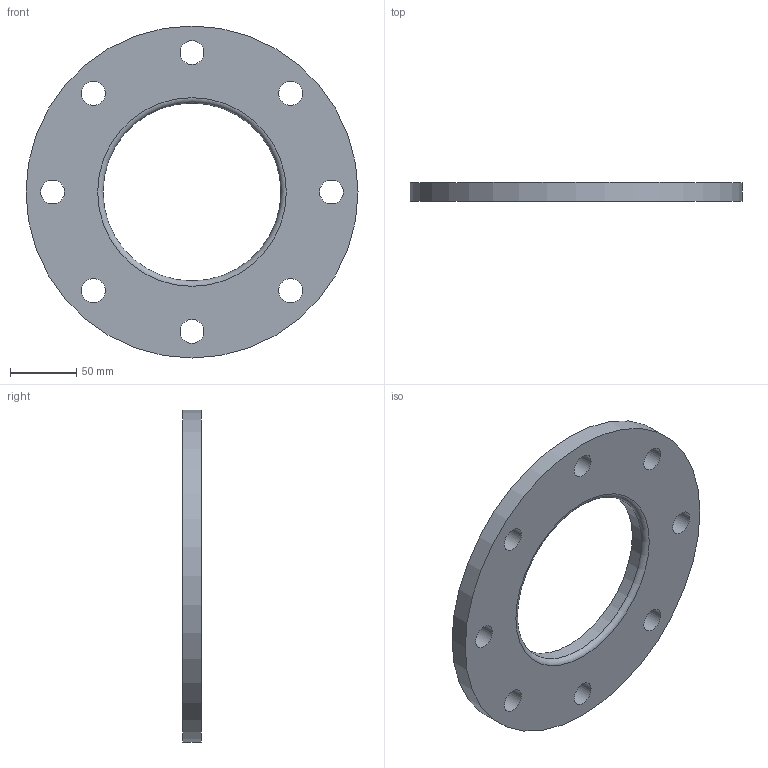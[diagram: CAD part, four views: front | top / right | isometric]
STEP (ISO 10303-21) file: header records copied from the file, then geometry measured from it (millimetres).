
FILE_DESCRIPTION(/* description */ (''),/* implementation_level */ '2;1');
FILE_NAME(/* name */ 'Z:\Geberit\Export\NewStep\368745.stp',/* time_stamp */ '2014-04-02T08:01:29+02:00',/* author */ ('nelson'),/* organization */ (''),/* preprocessor_version */ 'ST-DEVELOPER v15.2',/* originating_system */ 'Autodesk Inventor 2014',/* authorisation */ '');
FILE_SCHEMA (('AUTOMOTIVE_DESIGN { 1 0 10303 214 3 1 1 }'));
Length unit declared in the file: millimetre
Products named in the file (1): 368745
Bounding box: 250 x 14 x 250 mm (x, y, z)
Volume: 459821.6 mm3; surface area: 88405.1 mm2
Topology: 1 solids, 1 shells, 13 faces, 32 edges, 21 vertices
Faces by surface type: cylinder 10, plane 2, torus 1
Full cylindrical faces by diameter (mm): 18 x8, 134 x1, 250 x1
Entity records: 401 total; most frequent: DIRECTION 70, CARTESIAN_POINT 56, EDGE_LOOP 42, ORIENTED_EDGE 42, AXIS2_PLACEMENT_3D 35, FACE_BOUND 30, CIRCLE 21, VERTEX_POINT 21
